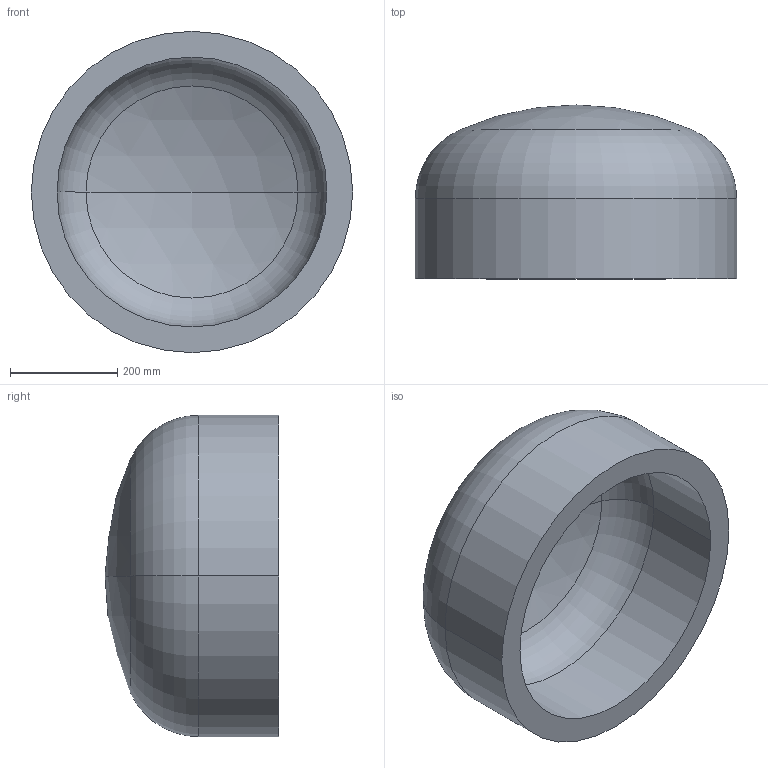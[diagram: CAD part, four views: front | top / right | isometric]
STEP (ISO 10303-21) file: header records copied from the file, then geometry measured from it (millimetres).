
FILE_DESCRIPTION (( 'STEP AP203' ), '1' );
FILE_NAME ('DIN 28013 Korbbogenform_-_Boden DIN 28013 - 600 x 150 - I - s=48.step', '2016-07-01T08:01:18', ( '' ), ( '' ), 'SwSTEP 2.0', 'SolidWorks 2013', '' );
FILE_SCHEMA (( 'CONFIG_CONTROL_DESIGN' ));
Length unit declared in the file: millimetre
Products named in the file (1): DIN 28013 Korbbogenform_-_Boden DIN 28013 - 600 x 150 - I - s=48
Bounding box: 600 x 324.53 x 600 mm (x, y, z)
Volume: 29471338.9 mm3; surface area: 1316037.4 mm2
Topology: 1 solids, 1 shells, 13 faces, 24 edges, 14 vertices
Faces by surface type: torus 4, cylinder 4, sphere 4, plane 1
Entity records: 407 total; most frequent: DIRECTION 72, CARTESIAN_POINT 52, ORIENTED_EDGE 48, AXIS2_PLACEMENT_3D 34, EDGE_CURVE 24, CIRCLE 20, VERTEX_POINT 14, EDGE_LOOP 14
